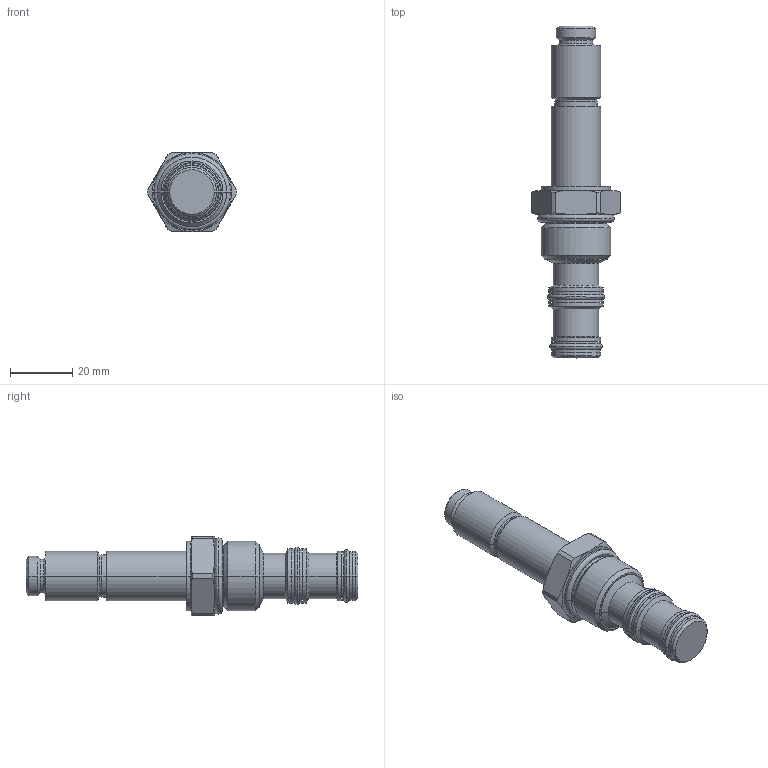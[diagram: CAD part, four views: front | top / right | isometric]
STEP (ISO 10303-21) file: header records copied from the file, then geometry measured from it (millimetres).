
FILE_DESCRIPTION((''),'2;1');
FILE_NAME('5026100_SW0001','2009-03-02T',('JCS'),(''),'PRO/ENGINEER BY PARAMETRIC TECHNOLOGY CORPORATION, 2008010','PRO/ENGINEER BY PARAMETRIC TECHNOLOGY CORPORATION, 2008010','');
FILE_SCHEMA(('CONFIG_CONTROL_DESIGN'));
Length unit declared in the file: inch
Products named in the file (1): 5026100_SW0001
Bounding box: 28.57 x 106.57 x 25.4 mm (x, y, z)
Volume: 25855.6 mm3; surface area: 9051.9 mm2
Topology: 4 solids, 4 shells, 166 faces, 348 edges, 202 vertices
Faces by surface type: cylinder 54, cone 44, plane 26, revolution 24, torus 18
Entity records: 4904 total; most frequent: CARTESIAN_POINT 1256, DIRECTION 810, ORIENTED_EDGE 696, EDGE_CURVE 348, AXIS2_PLACEMENT_3D 344, VERTEX_POINT 202, CIRCLE 202, EDGE_LOOP 184
